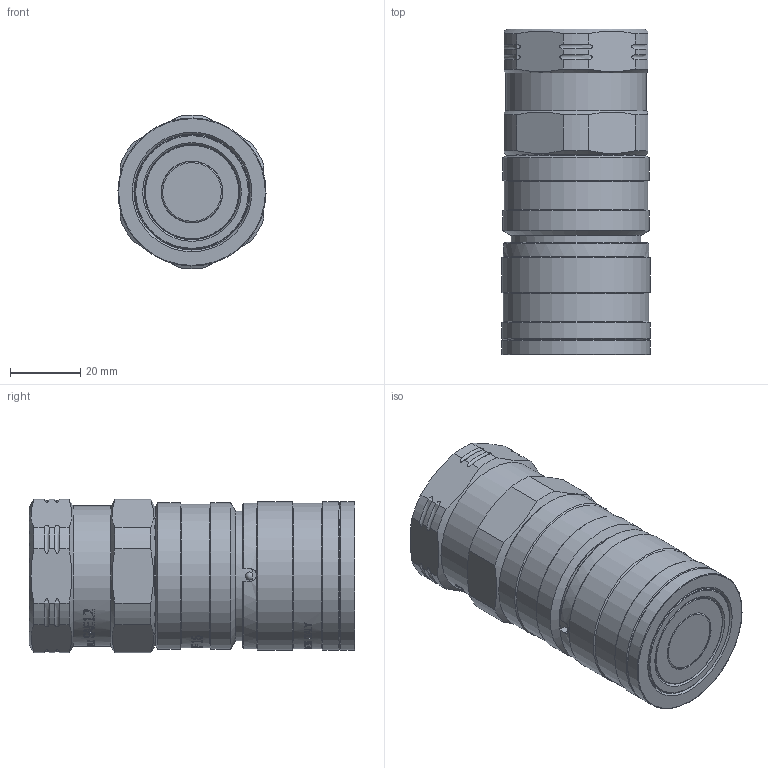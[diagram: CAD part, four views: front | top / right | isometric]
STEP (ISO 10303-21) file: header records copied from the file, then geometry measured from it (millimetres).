
FILE_DESCRIPTION(/* description */ (''),/* implementation_level */ '2;1');
FILE_NAME(/* name */ 'NC06S040004.stp',/* time_stamp */ '2024-11-22T15:02:10+01:00',/* author */ ('thomas.belotti'),/* organization */ (''),/* preprocessor_version */ 'ST-DEVELOPER v20',/* originating_system */ 'Autodesk Inventor 2024',/* authorisation */ '');
FILE_SCHEMA (('AUTOMOTIVE_DESIGN { 1 0 10303 214 3 1 1 }'));
Products named in the file (1): Parte9
Bounding box: 42.2 x 92.79 x 43.73 mm (x, y, z)
Volume: 114930.6 mm3; surface area: 18945.6 mm2
Topology: 1 solids, 1 shells, 1635 faces, 4654 edges, 3093 vertices
Faces by surface type: bspline 1045, plane 426, cylinder 126, cone 20, torus 16, sphere 2
Full cylindrical faces by diameter (mm): 17.5 x1, 17.6 x1, 24.91 x1, 27 x1, 27.1 x1, 32.5 x1, 33.05 x1, 36.9 x1, 37 x1, 37.3 x1, 40 x1, 41 x1, 41.5 x1, 41.7 x2, 42.2 x3
Entity records: 70697 total; most frequent: CARTESIAN_POINT 33365, ORIENTED_EDGE 9308, EDGE_CURVE 4654, DIRECTION 4200, VERTEX_POINT 3093, B_SPLINE_CURVE_WITH_KNOTS 2197, LINE 1840, VECTOR 1840
